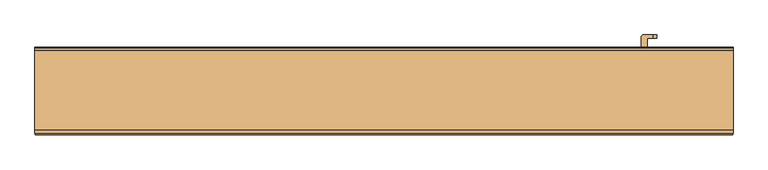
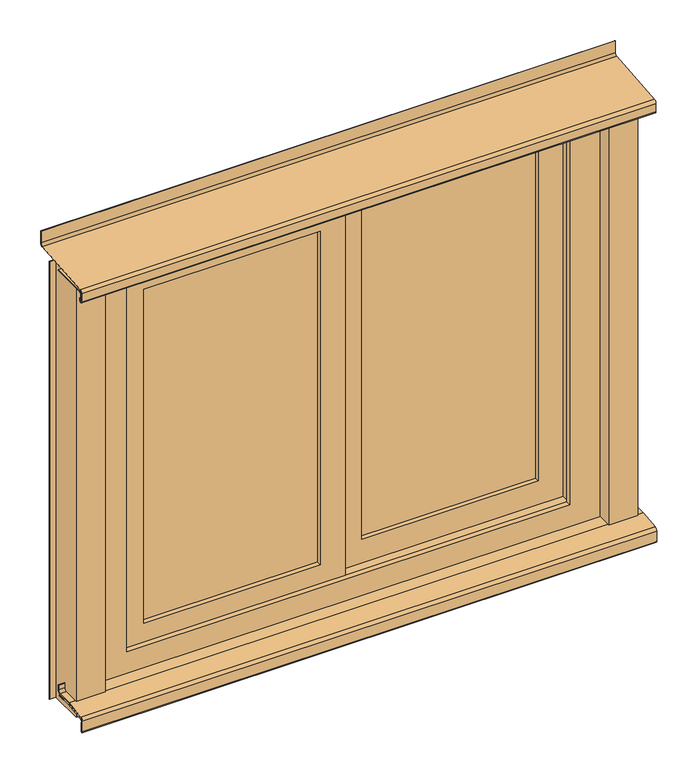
"""IFC4 building model written with IfcOpenShell, lengths in millimetres: door geometry, Fenetre pour Tenda Horizontal : Fenetre pour Tenda H."""

from ifc_helpers import new_model, si_unit, point, frame, frame_2d, origin, place, context, project, spatial, polyline, circle_curve, trimmed, segment, composite_curve, outline, extrude, faceted_brep, source, transform, mapped, element, save
from ifc_brep_helpers import plane_surface, cylinder_surface, advanced_brep


def door_7bd7af4c(model_context):
    return source(origin(), model_context, "Body", "SolidModel", [
        advanced_brep(
        [(420.0, 60.7721751, 400.0), (422.4686818, 63.2408569, 400.0), (439.0477825, 63.2408569, 400.0), (439.0477825, 58.2408569, 400.0), (430.0, 58.2408569, 400.0), (430.0, 43.2408569, 400.0), (420.0, 43.2408569, 400.0), (420.0, 60.7721751, 500.0), (420.0, 43.2408569, 500.0), (430.0, 43.2408569, 500.0), (430.0, 58.2408569, 500.0), (439.0477825, 58.2408569, 500.0), (439.0477825, 63.2408569, 500.0), (422.4686818, 63.2408569, 500.0), (445.0, 58.2408569, 405.9522175), (445.0, 58.2408569, 494.0477825), (445.0, 63.2408569, 405.9522175), (445.0, 63.2408569, 494.0477825)],
        [
            (0, 1),
            (1, 2),
            (2, 3),
            (3, 4),
            (4, 5),
            (5, 6),
            (6, 0),
            (7, 8),
            (8, 9),
            (9, 10),
            (10, 11),
            (11, 12),
            (12, 13),
            (13, 7),
            (6, 8),
            (7, 0),
            (5, 9),
            (4, 10),
            (3, 14, circle_curve(frame((439.0477825, 58.2408569, 405.9522175), z_axis=(0.0, -1.0, 0.0), x_axis=(1.0, 0.0, 0.0)), 5.9522175)),
            (14, 15),
            (15, 11, circle_curve(frame((439.0477825, 58.2408569, 494.0477825), z_axis=(0.0, -1.0, 0.0), x_axis=(1.0, 0.0, 0.0)), 5.9522175)),
            (14, 16),
            (16, 17),
            (17, 15),
            (12, 17, circle_curve(frame((439.0477825, 63.2408569, 494.0477825), z_axis=(0.0, 1.0, 0.0), x_axis=(1.0, 0.0, 0.0)), 5.9522175)),
            (16, 2, circle_curve(frame((439.0477825, 63.2408569, 405.9522175), z_axis=(0.0, 1.0, 0.0), x_axis=(1.0, 0.0, 0.0)), 5.9522175)),
            (1, 13),
        ],
        [
            plane_surface(frame((420.0, 43.2408569, 400.0), z_axis=(0.0, 0.0, -1.0), x_axis=(0.0, -1.0, 0.0))),
            plane_surface(frame((420.0, 43.2408569, 500.0), z_axis=(0.0, 0.0, 1.0), x_axis=(0.0, 1.0, 0.0))),
            plane_surface(frame((420.0, 60.7721751, 400.0), z_axis=(-1.0, 0.0, 0.0), x_axis=(0.0, 0.0, 1.0))),
            plane_surface(frame((420.0, 43.2408569, 400.0), z_axis=(0.0, -1.0, 0.0), x_axis=(0.0, 0.0, 1.0))),
            plane_surface(frame((430.0, 43.2408569, 400.0), z_axis=(1.0, 0.0, 0.0), x_axis=(0.0, 0.0, 1.0))),
            plane_surface(frame((430.0, 58.2408569, 400.0), z_axis=(0.0, -1.0, 0.0), x_axis=(0.0, 0.0, 1.0))),
            plane_surface(frame((445.0, 58.2408569, 400.0), z_axis=(1.0, 0.0, 0.0), x_axis=(0.0, 0.0, 1.0))),
            plane_surface(frame((445.0, 63.2408569, 400.0), z_axis=(0.0, 1.0, 0.0), x_axis=(0.0, 0.0, 1.0))),
            plane_surface(frame((422.4686818, 63.2408569, 400.0), z_axis=(-0.7071067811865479, 0.7071067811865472, 0.0), x_axis=(0.0, 0.0, 1.0))),
            cylinder_surface(frame((439.0477825, 58.2408569, 494.0477825), z_axis=(0.0, -1.0, 0.0), x_axis=(1.0, 0.0, 0.0)), 5.9522175),
            cylinder_surface(frame((439.0477825, 58.2408569, 405.9522175), z_axis=(0.0, -1.0, 0.0), x_axis=(1.0, 0.0, 0.0)), 5.9522175),
        ],
        [
            (0, [[1, 2, 3, 4, 5, 6, 7]]),
            (1, [[8, 9, 10, 11, 12, 13, 14]]),
            (2, [[15, -8, 16, -7]]),
            (3, [[17, -9, -15, -6]]),
            (4, [[18, -10, -17, -5]]),
            (5, [[-4, 19, 20, 21, -11, -18]]),
            (6, [[22, 23, 24, -20]]),
            (7, [[-13, 25, -23, 26, -2, 27]]),
            (8, [[-16, -14, -27, -1]]),
            (9, [[-21, -24, -25, -12]]),
            (10, [[-26, -22, -19, -3]]),
        ],
    ),
        advanced_brep(
        [(-420.0, 30.7721751, 400.0), (-420.0, 13.2408569, 400.0), (-430.0, 13.2408569, 400.0), (-430.0, 28.2408569, 400.0), (-439.0477825, 28.2408569, 400.0), (-439.0477825, 33.2408569, 400.0), (-422.4686818, 33.2408569, 400.0), (-420.0, 30.7721751, 500.0), (-422.4686818, 33.2408569, 500.0), (-439.0477825, 33.2408569, 500.0), (-439.0477825, 28.2408569, 500.0), (-430.0, 28.2408569, 500.0), (-430.0, 13.2408569, 500.0), (-420.0, 13.2408569, 500.0), (-445.0, 28.2408569, 494.0477825), (-445.0, 28.2408569, 405.9522175), (-445.0, 33.2408569, 494.0477825), (-445.0, 33.2408569, 405.9522175)],
        [
            (0, 1),
            (1, 2),
            (2, 3),
            (3, 4),
            (4, 5),
            (5, 6),
            (6, 0),
            (7, 8),
            (8, 9),
            (9, 10),
            (10, 11),
            (11, 12),
            (12, 13),
            (13, 7),
            (0, 7),
            (13, 1),
            (12, 2),
            (11, 3),
            (10, 14, circle_curve(frame((-439.0477825, 28.2408569, 494.0477825), z_axis=(0.0, -1.0, 0.0), x_axis=(-1.0, 0.0, 0.0)), 5.9522175)),
            (14, 15),
            (15, 4, circle_curve(frame((-439.0477825, 28.2408569, 405.9522175), z_axis=(0.0, -1.0, 0.0), x_axis=(-1.0, 0.0, 0.0)), 5.9522175)),
            (14, 16),
            (16, 17),
            (17, 15),
            (8, 6),
            (5, 17, circle_curve(frame((-439.0477825, 33.2408569, 405.9522175), z_axis=(0.0, 1.0, 0.0), x_axis=(-1.0, 0.0, 0.0)), 5.9522175)),
            (16, 9, circle_curve(frame((-439.0477825, 33.2408569, 494.0477825), z_axis=(0.0, 1.0, 0.0), x_axis=(-1.0, 0.0, 0.0)), 5.9522175)),
        ],
        [
            plane_surface(frame((-420.0, 13.2408569, 400.0), z_axis=(0.0, 0.0, -1.0), x_axis=(0.0, -1.0, 0.0))),
            plane_surface(frame((-420.0, 13.2408569, 500.0), z_axis=(0.0, 0.0, 1.0), x_axis=(0.0, 1.0, 0.0))),
            plane_surface(frame((-420.0, 30.7721751, 400.0), z_axis=(1.0, 0.0, 0.0), x_axis=(0.0, 0.0, 1.0))),
            plane_surface(frame((-420.0, 13.2408569, 400.0), z_axis=(0.0, -1.0, 0.0), x_axis=(0.0, 0.0, 1.0))),
            plane_surface(frame((-430.0, 13.2408569, 400.0), z_axis=(-1.0, 0.0, 0.0), x_axis=(0.0, 0.0, 1.0))),
            plane_surface(frame((-430.0, 28.2408569, 400.0), z_axis=(0.0, -1.0, 0.0), x_axis=(0.0, 0.0, 1.0))),
            plane_surface(frame((-445.0, 28.2408569, 400.0), z_axis=(-1.0, 0.0, 0.0), x_axis=(0.0, 0.0, 1.0))),
            plane_surface(frame((-445.0, 33.2408569, 400.0), z_axis=(0.0, 1.0, 0.0), x_axis=(0.0, 0.0, 1.0))),
            plane_surface(frame((-422.4686818, 33.2408569, 400.0), z_axis=(0.7071067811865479, 0.7071067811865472, 0.0), x_axis=(0.0, 0.0, 1.0))),
            cylinder_surface(frame((-439.0477825, 28.2408569, 494.0477825), z_axis=(0.0, -1.0, 0.0), x_axis=(-1.0, 0.0, 0.0)), 5.9522175),
            cylinder_surface(frame((-439.0477825, 28.2408569, 405.9522175), z_axis=(0.0, -1.0, 0.0), x_axis=(-1.0, 0.0, 0.0)), 5.9522175),
        ],
        [
            (0, [[1, 2, 3, 4, 5, 6, 7]]),
            (1, [[8, 9, 10, 11, 12, 13, 14]]),
            (2, [[-1, 15, -14, 16]]),
            (3, [[-2, -16, -13, 17]]),
            (4, [[-3, -17, -12, 18]]),
            (5, [[-18, -11, 19, 20, 21, -4]]),
            (6, [[-20, 22, 23, 24]]),
            (7, [[25, -6, 26, -23, 27, -9]]),
            (8, [[-7, -25, -8, -15]]),
            (9, [[-10, -27, -22, -19]]),
            (10, [[-5, -21, -24, -26]]),
        ],
    ),
        faceted_brep([(-440.0, -16.7591431, 840.0), (440.0, -16.7591431, 840.0), (440.0, -26.7591431, 840.0), (-440.0, -26.7591431, 840.0), (-450.0, 43.2408569, 850.0), (450.0, 43.2408569, 850.0), (450.0, -16.7591431, 850.0), (-450.0, -16.7591431, 850.0), (-500.0, -26.7591431, 900.0), (500.0, -26.7591431, 900.0), (500.0, 43.2408569, 900.0), (-500.0, 43.2408569, 900.0), (440.0, -16.7591431, 60.0), (440.0, -26.7591431, 60.0), (450.0, 43.2408569, 50.0), (450.0, -16.7591431, 50.0), (500.0, -26.7591431, 0.0), (500.0, 43.2408569, 0.0), (-440.0, -16.7591431, 60.0), (-440.0, -26.7591431, 60.0), (-450.0, 43.2408569, 50.0), (-450.0, -16.7591431, 50.0), (-500.0, -26.7591431, 0.0), (-500.0, 43.2408569, 0.0)], [[[0, 1, 2, 3]], [[4, 5, 6, 7]], [[8, 9, 10, 11]], [[1, 12, 13, 2]], [[5, 14, 15, 6]], [[9, 16, 17, 10]], [[12, 18, 19, 13]], [[14, 20, 21, 15]], [[16, 22, 23, 17]], [[9, 8, 22, 16], [3, 2, 13, 19]], [[18, 0, 3, 19]], [[7, 6, 15, 21], [1, 0, 18, 12]], [[20, 4, 7, 21]], [[11, 10, 17, 23], [5, 4, 20, 14]], [[22, 8, 11, 23]]]),
        extrude(outline(polyline([(850.0, 0.0), (850.0, -450.0), (50.0, -450.0), (50.0, 0.0), (850.0, 0.0)]), holes=[polyline([(800.0, -400.0), (800.0, -50.0), (100.0, -50.0), (100.0, -400.0), (800.0, -400.0)])]), frame((0.0, -16.7591431, 0.0), z_axis=(0.0, 1.0, 0.0), x_axis=(0.0, 0.0, 1.0)), (0.0, 0.0, 1.0), 30.0),
        extrude(outline(polyline([(-400.0, -7.7591431), (-400.0, 4.2408569), (-50.0, 4.2408569), (-50.0, -7.7591431), (-400.0, -7.7591431)])), frame((0.0, 0.0, 100.0), z_axis=(0.0, 0.0, 1.0), x_axis=(1.0, 0.0, 0.0)), (0.0, 0.0, 1.0), 700.0),
        extrude(outline(polyline([(50.0, 0.0), (50.0, 450.0), (850.0, 450.0), (850.0, 0.0), (50.0, 0.0)]), holes=[polyline([(100.0, 400.0), (100.0, 50.0), (800.0, 50.0), (800.0, 400.0), (100.0, 400.0)])]), frame((0.0, 13.2408569, 0.0), z_axis=(0.0, 1.0, 0.0), x_axis=(0.0, 0.0, 1.0)), (0.0, 0.0, 1.0), 30.0),
        extrude(outline(polyline([(50.0, 22.2408569), (50.0, 34.2408569), (400.0, 34.2408569), (400.0, 22.2408569), (50.0, 22.2408569)])), frame((0.0, 0.0, 100.0), z_axis=(0.0, 0.0, 1.0), x_axis=(1.0, 0.0, 0.0)), (0.0, 0.0, 1.0), 700.0),
        extrude(outline(composite_curve([segment(polyline([(-92.2439175, 905.2723483), (37.6766356, 916.6389239)]), True, "CONTINUOUS"), segment(trimmed(circle_curve(frame_2d((37.2408569, 921.6198974)), 5.0), [point((37.6766356, 916.6389239))], [point((42.2408569, 921.6198974))], True, "CARTESIAN"), True, "CONTINUOUS"), segment(polyline([(42.2408569, 921.6198974), (42.2408569, 946.1633549), (43.2408569, 946.1633549), (43.2408569, 921.3908146)]), True, "CONTINUOUS"), segment(trimmed(circle_curve(frame_2d((37.4908569, 921.3908146)), 5.75), [point((43.2408569, 921.3908146))], [point((37.9920024, 915.6626951))], False, "CARTESIAN"), True, "CONTINUOUS"), segment(polyline([(37.9920024, 915.6626951), (-91.9285507, 904.2961195)]), True, "CONTINUOUS"), segment(trimmed(circle_curve(frame_2d((-91.492772, 899.315146)), 5.0), [point((-91.9285507, 904.2961195))], [point((-96.492772, 899.315146))], True, "CARTESIAN"), True, "CONTINUOUS"), segment(polyline([(-96.492772, 899.315146), (-96.492772, 882.0809)]), True, "CONTINUOUS"), segment(trimmed(circle_curve(frame_2d((-94.492772, 882.0809)), 2.0), [point((-96.492772, 882.0809))], [point((-92.492772, 882.0809))], True, "CARTESIAN"), True, "CONTINUOUS"), segment(polyline([(-92.492772, 882.0809), (-92.492772, 887.0809), (-91.492772, 887.0809), (-91.492772, 882.0809)]), True, "CONTINUOUS"), segment(trimmed(circle_curve(frame_2d((-94.492772, 882.0809)), 3.0), [point((-91.492772, 882.0809))], [point((-97.492772, 882.0809))], False, "CARTESIAN"), True, "CONTINUOUS"), segment(polyline([(-97.492772, 882.0809), (-97.492772, 899.5442288)]), True, "CONTINUOUS"), segment(trimmed(circle_curve(frame_2d((-91.742772, 899.5442288)), 5.75), [point((-97.492772, 899.5442288))], [point((-92.2439175, 905.2723483))], False, "CARTESIAN"), True, "CONTINUOUS")], self_intersect=False)), frame((-570.0, 0.0, 0.0), z_axis=(1.0, 0.0, 0.0), x_axis=(0.0, 1.0, 0.0)), (0.0, 0.0, 1.0), 1140.0),
        extrude(outline(composite_curve([segment(polyline([(-89.242772, 901.0), (-16.7591431, 901.0), (-16.7591431, 900.0), (-88.992772, 900.0)]), True, "CONTINUOUS"), segment(trimmed(circle_curve(frame_2d((-88.992772, 895.0)), 5.0), [point((-88.992772, 900.0))], [point((-93.992772, 895.0))], True, "CARTESIAN"), True, "CONTINUOUS"), segment(polyline([(-93.992772, 895.0), (-93.992772, 885.0), (-94.992772, 885.0), (-94.992772, 895.25)]), True, "CONTINUOUS"), segment(trimmed(circle_curve(frame_2d((-89.242772, 895.25)), 5.75), [point((-94.992772, 895.25))], [point((-89.242772, 901.0))], False, "CARTESIAN"), True, "CONTINUOUS")], self_intersect=False)), frame((-570.0, 0.0, 0.0), z_axis=(1.0, 0.0, 0.0), x_axis=(0.0, 1.0, 0.0)), (0.0, 0.0, 1.0), 1140.0),
        extrude(outline(composite_curve([segment(polyline([(-22.5091431, 13.8493885), (-52.6757766, 13.8493885), (-94.491071, 8.6070879)]), True, "CONTINUOUS"), segment(trimmed(circle_curve(frame_2d((-93.8690997, 3.6459235)), 5.0), [point((-94.491071, 8.6070879))], [point((-98.8690997, 3.6459235))], True, "CARTESIAN"), True, "CONTINUOUS"), segment(polyline([(-98.8690997, 3.6459235), (-98.8690997, -18.5280564)]), True, "CONTINUOUS"), segment(trimmed(circle_curve(frame_2d((-97.3690997, -18.5571543)), 1.5002822), [point((-98.8690997, -18.5280564))], [point((-95.8690997, -18.5280564))], True, "CARTESIAN"), True, "CONTINUOUS"), segment(polyline([(-95.8690997, -18.5280564), (-95.8690997, -1.0254457), (-94.8690997, -1.0254457), (-94.8690997, -18.5280564)]), True, "CONTINUOUS"), segment(trimmed(circle_curve(frame_2d((-97.3690997, -18.5254444)), 2.5000014), [point((-94.8690997, -18.5280564))], [point((-99.8690997, -18.5280564))], False, "CARTESIAN"), True, "CONTINUOUS"), segment(polyline([(-99.8690997, -18.5280564), (-99.8690997, 3.9004098)]), True, "CONTINUOUS"), segment(trimmed(circle_curve(frame_2d((-94.1190997, 3.9004098)), 5.75), [point((-99.8690997, 3.9004098))], [point((-94.8343667, 9.6057488))], False, "CARTESIAN"), True, "CONTINUOUS"), segment(polyline([(-94.8343667, 9.6057488), (-53.6757766, 14.7657197), (-22.7591431, 14.7657197)]), True, "CONTINUOUS"), segment(trimmed(circle_curve(frame_2d((-22.7591431, 19.7657197)), 5.0), [point((-22.7591431, 14.7657197))], [point((-17.7591431, 19.7657197))], True, "CARTESIAN"), True, "CONTINUOUS"), segment(polyline([(-17.7591431, 19.7657197), (-17.7591431, 29.7657197), (-16.7591431, 29.7657197), (-16.7591431, 19.5993885)]), True, "CONTINUOUS"), segment(trimmed(circle_curve(frame_2d((-22.5091431, 19.5993885)), 5.75), [point((-16.7591431, 19.5993885))], [point((-22.5091431, 13.8493885))], False, "CARTESIAN"), True, "CONTINUOUS")], self_intersect=False)), frame((-569.7838213, 0.0, 0.0), z_axis=(1.0, 0.0, 0.0), x_axis=(0.0, 1.0, 0.0)), (0.0, 0.0, 1.0), 1139.5676427),
        extrude(outline(composite_curve([segment(polyline([(-92.9885508, 5.1441609), (-53.4234998, 10.1581669), (-20.0166386, 10.1581669), (-20.0166386, 9.2418357), (-52.4234998, 9.2418357), (-92.6442588, 4.144733)]), True, "CONTINUOUS"), segment(trimmed(circle_curve(frame_2d((-92.0156457, -0.8155942)), 5.0), [point((-92.6442588, 4.144733))], [point((-97.0156457, -0.8155942))], True, "CARTESIAN"), True, "CONTINUOUS"), segment(polyline([(-97.0156457, -0.8155942), (-97.0156457, -18.7572246), (-98.0156457, -18.7572246), (-98.0156457, -0.5602154)]), True, "CONTINUOUS"), segment(trimmed(circle_curve(frame_2d((-92.2656457, -0.5602154)), 5.75), [point((-98.0156457, -0.5602154))], [point((-92.9885508, 5.1441609))], False, "CARTESIAN"), True, "CONTINUOUS")], self_intersect=False)), frame((-569.7838213, 0.0, 0.0), z_axis=(1.0, 0.0, 0.0), x_axis=(0.0, 1.0, 0.0)), (0.0, 0.0, 1.0), 1139.5676427),
        extrude(outline(polyline([(500.0, 26.7620699), (502.6384309, 36.6088282), (503.6043568, 36.3500091), (501.0, 26.6304174), (501.0, -55.7591431), (556.2054608, -55.7591431), (556.2054608, 14.2578975), (570.0, 14.2578975), (569.7838213, 13.2408569), (557.2054608, 13.2408569), (557.2054608, -56.7591431), (500.0, -56.7591431), (500.0, 26.7620699)])), frame((0.0, 0.0, -18.5280564), z_axis=(0.0, 0.0, 1.0), x_axis=(1.0, 0.0, 0.0)), (0.0, 0.0, 1.0), 918.5280564),
        extrude(outline(polyline([(-500.0, 26.7620699), (-500.0, -56.7591431), (-557.2054608, -56.7591431), (-557.2054608, 13.2408569), (-569.7838213, 13.2408569), (-570.0, 14.2578975), (-556.2054608, 14.2578975), (-556.2054608, -55.7591431), (-501.0, -55.7591431), (-501.0, 26.6304174), (-503.6043568, 36.3500091), (-502.6384309, 36.6088282), (-500.0, 26.7620699)])), frame((0.0, 0.0, -18.7572246), z_axis=(0.0, 0.0, 1.0), x_axis=(1.0, 0.0, 0.0)), (0.0, 0.0, 1.0), 918.7572246),
    ])


if __name__ == "__main__":
    model = new_model("IFC4")
    model_context = context("Model", 3, world=origin())
    ifc_project = project(units=[si_unit("LENGTHUNIT", "METRE", prefix="MILLI")], contexts=[model_context])
    site = spatial("IfcSite", under=ifc_project)
    building = spatial("IfcBuilding", under=site)
    placement = place(None, origin())
    door_shape = door_7bd7af4c(model_context)
    element("IfcDoor", 1, ObjectType="Fenetre pour Tenda Horizontal : Fenetre pour Tenda H", at=placement, inside=building, context=model_context, shape_type="MappedRepresentation", body=[
        mapped(door_shape, transform((0.0, 0.0, 0.0), x_axis=(1.0, 0.0, 0.0), y_axis=(0.0, 1.0, 0.0), z_axis=(0.0, 0.0, 1.0))),
    ])
    save(model, "model.ifc")
